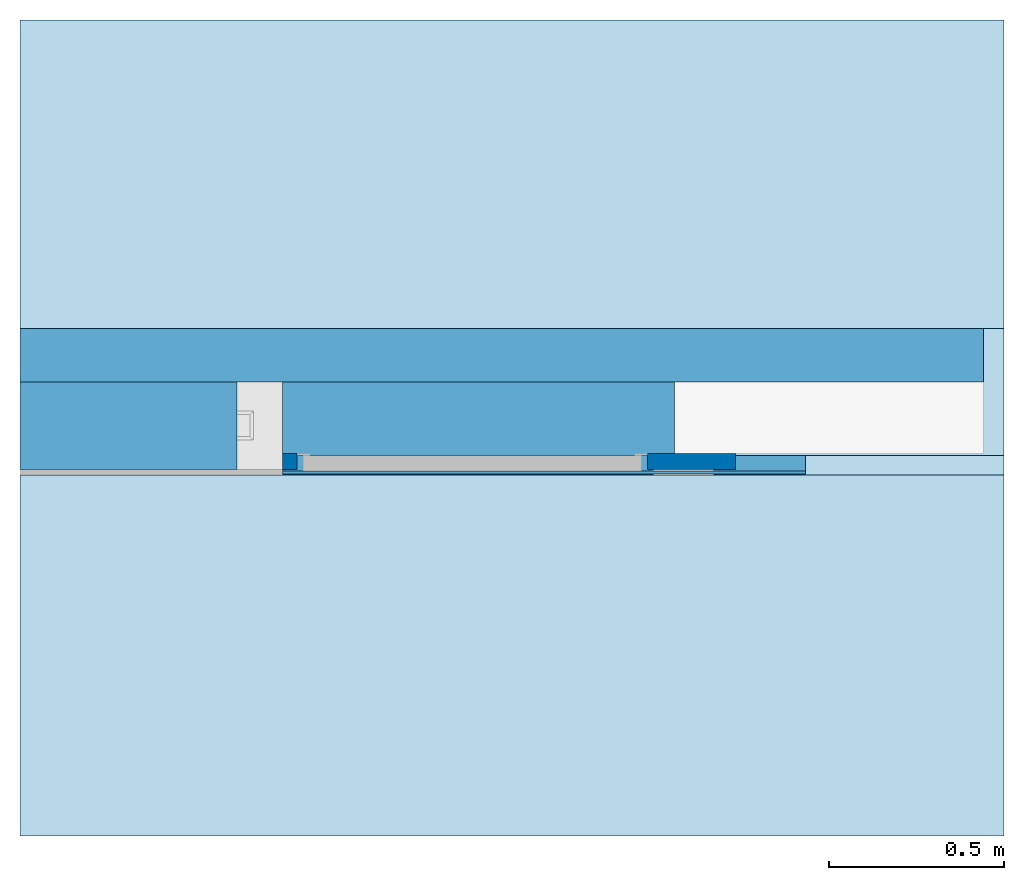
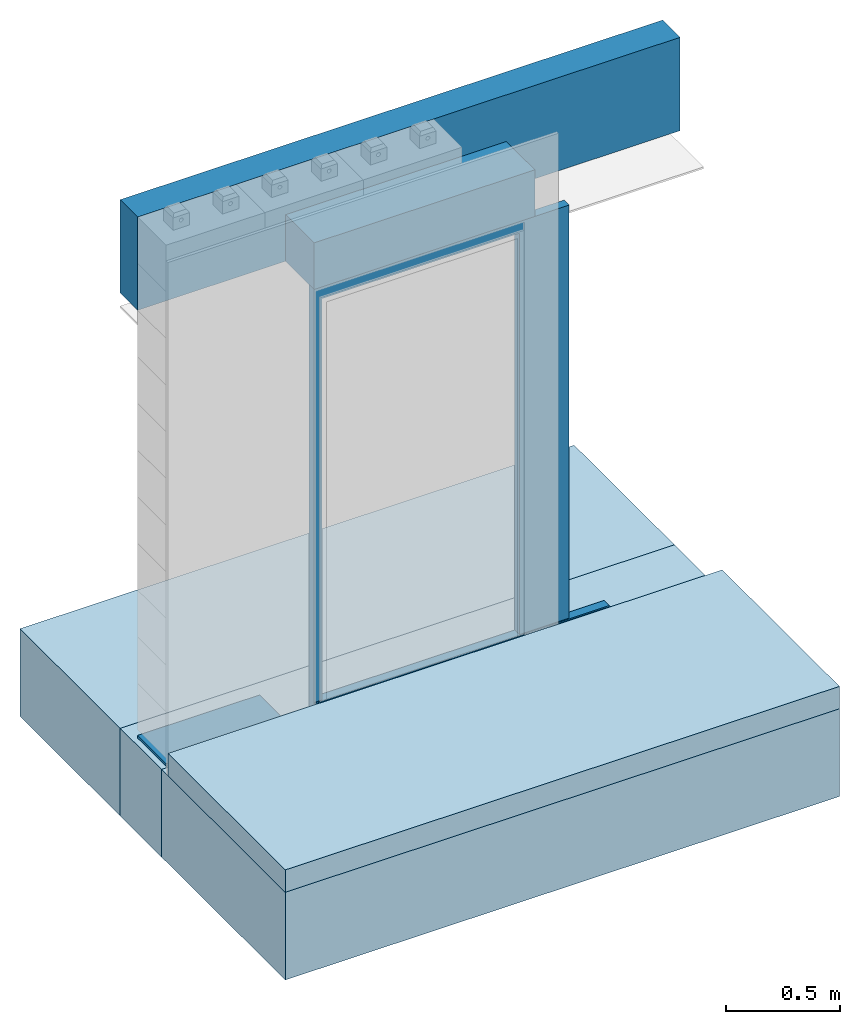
# One storey, part 1 of 3: 4 slabs, 4 walls, 2 beams, 1 opening.
"""IFC4 building model written with IfcOpenShell, lengths in centimetres."""

from ifc_helpers import new_model, entity, si_unit, converted_unit, direction, frame, origin, place, context, subcontext, project, spatial, indexed_curve, outline, extrude, polygons, source, transform, mapped, material, constituent, constituent_set, type_object, type_shapes, element, save


model = new_model("IFC4")

# Units and contexts
model_context = context("Model", 3, precision=0.001, world=origin(), true_north=direction((0.0, 1.0)))
body_context = subcontext(model_context, "Body", "Model", "MODEL_VIEW")
ifc_project = project(units=[si_unit("LENGTHUNIT", "METRE", prefix="CENTI"), si_unit("AREAUNIT", "SQUARE_METRE"), si_unit("VOLUMEUNIT", "CUBIC_METRE"), converted_unit("PLANEANGLEUNIT", "DEGREE", entity("IfcPlaneAngleMeasure", 0.017453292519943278), si_unit("PLANEANGLEUNIT", "RADIAN"), dimensions=[0, 0, 0, 0, 0, 0, 0])], contexts=[model_context])

# Site, building, storey
site_placement = place(None, origin())
site = spatial("IfcSite", under=ifc_project, at=site_placement, Name="Default", CompositionType="ELEMENT")
building_placement = place(site_placement, origin())
building = spatial("IfcBuilding", under=site, at=building_placement, CompositionType="ELEMENT")
storey_placement = place(building_placement, frame((0.0, 0.0, -12.0)))
storey = spatial("IfcBuildingStorey", under=building, at=storey_placement, Name="L00__ABOVE Slab", CompositionType="ELEMENT", Elevation=-12.000000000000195)

# Beams
ifc_material_1 = material(Name="_STRUCTURE__Wood")
beam_type_1 = type_object("IfcBeamType", Name="Structural Framing : sfr__WOOD__Rectangular__sf : 15 x 1cm", PredefinedType="BEAM", material=ifc_material_1)
shared_shape_1 = source(origin(), body_context, "Body", "SweptSolid", [
    extrude(outline(indexed_curve([(-30.949999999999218, -12.500000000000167), (30.949999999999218, -12.500000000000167), (30.949999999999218, 12.500000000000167), (-30.949999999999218, 12.500000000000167), (-30.949999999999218, -12.500000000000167)], self_intersect=False)), frame((-6.550000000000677, 0.0, -0.7500000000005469), z_axis=(0.0, 0.0, 1.0), x_axis=(-1.0, 0.0, 0.0)), (0.0, 0.0, 1.0), 1.4999999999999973),
])
type_shapes(beam_type_1, [shared_shape_1])
beam_1_placement = place(storey_placement, frame((2813.149456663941, 1205.3718731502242, 9.25), z_axis=(0.0, 0.0, 1.0), x_axis=(-1.0, 0.0, 0.0)))
element("IfcBeam", 1, at=beam_1_placement, inside=storey, type_object=beam_type_1, material=ifc_material_1, Name="Structural Framing : sfr__WOOD__Rectangular__sf : 15 x 1cm", PredefinedType="BEAM", context=body_context, shape_type="MappedRepresentation", body=[
    mapped(shared_shape_1, transform((0.0, 0.0, 0.0), scale=1.0)),
])
ifc_material_2 = material(Name="_MASONRY__Timber Block__Triqbriq, Filler", Category="Miscellaneous")
beam_type_2 = type_object("IfcBeamType", Name="Structural Framing : sfr__WOOD__Rectangular__sf : 15 x 25cm", PredefinedType="BEAM", material=ifc_material_2)
shared_shape_2 = source(origin(), body_context, "Body", "SweptSolid", [
    extrude(outline(indexed_curve([(-55.949999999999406, -12.500000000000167), (55.949999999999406, -12.500000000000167), (55.949999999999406, 12.500000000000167), (-55.949999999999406, 12.500000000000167), (-55.949999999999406, -12.500000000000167)], self_intersect=False)), frame((19.050000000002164, 0.0, -12.500000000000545), z_axis=(0.0, 0.0, 1.0), x_axis=(-1.0, 0.0, 0.0)), (0.0, 0.0, 1.0), 24.999999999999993),
])
type_shapes(beam_type_2, [shared_shape_2])
beam_2_placement = place(storey_placement, frame((2900.6494566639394, 1205.3718731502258, 250.30000000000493)))
element("IfcBeam", 2, at=beam_2_placement, inside=storey, type_object=beam_type_2, material=ifc_material_2, Name="Structural Framing : sfr__WOOD__Rectangular__sf : 15 x 25cm", PredefinedType="BEAM", context=body_context, shape_type="MappedRepresentation", body=[
    mapped(shared_shape_2, transform((0.0, 0.0, 0.0), scale=1.0)),
])

# Slabs
ifc_material_3 = material(Name="_FND LAYERS__Insulation__Foam Glass__Glapor", Category="Unassigned")
ifc_constituent_1 = constituent(ifc_material_3, Name="_FND LAYERS__Insulation__Foam Glass__Glapor", Category="Unassigned", fraction=0.2553191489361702)
ifc_constituent_2 = constituent(ifc_material_3, Name="_FND LAYERS__Insulation__Foam Glass__Glapor", Category="Unassigned", fraction=0.2553191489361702)
ifc_material_4 = material(Name="_FCD FINISH__Spray-cork", Category="Concrete")
ifc_constituent_3 = constituent(ifc_material_4, Name="_FCD FINISH__Spray-cork", Category="Concrete", fraction=0.06382978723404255)
ifc_material_5 = material(Name="_OBJECT__Casework__Stone")
ifc_constituent_4 = constituent(ifc_material_5, Name="_OBJECT__Casework__Stone", fraction=0.425531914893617)
ifc_constituent_set_1 = constituent_set(constituents=[ifc_constituent_1, ifc_constituent_2, ifc_constituent_3, ifc_constituent_4], Name="Floor:flr__WP & INSULATION__GLAPOR")
slab_type_1 = type_object("IfcSlabType", Name="Floors : Floor : flr__WP & INSULATION__GLAPOR", PredefinedType="FLOOR", material=ifc_constituent_set_1)
slab_1_placement = place(storey_placement, origin())
element("IfcSlab", 3, at=slab_1_placement, inside=storey, type_object=slab_type_1, material=ifc_constituent_set_1, Name="Floors : Floor : flr__WP & INSULATION__GLAPOR", PredefinedType="FLOOR", context=body_context, shape_type="SweptSolid", body=[
    extrude(outline(indexed_curve([(-54.30000000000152, -140.44999999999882), (54.300000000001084, -140.44999999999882), (54.30000000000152, 140.44999999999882), (-54.300000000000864, 140.44999999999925), (-54.30000000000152, -140.44999999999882)], self_intersect=False)), frame((2929.1994566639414, 1142.5718731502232, -7.499999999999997), z_axis=(0.0, 0.0, 1.0), x_axis=(0.0, 1.0, 0.0)), (0.0, 0.0, 1.0), 12.0),
    extrude(outline(indexed_curve([(-54.30000000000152, -140.44999999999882), (54.300000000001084, -140.44999999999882), (54.30000000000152, 140.44999999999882), (-54.300000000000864, 140.44999999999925), (-54.30000000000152, -140.44999999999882)], self_intersect=False)), frame((2929.1994566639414, 1142.5718731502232, -19.499999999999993), z_axis=(0.0, 0.0, 1.0), x_axis=(0.0, 1.0, 0.0)), (0.0, 0.0, 1.0), 11.999999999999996),
    extrude(outline(indexed_curve([(-54.30000000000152, -140.44999999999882), (54.300000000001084, -140.44999999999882), (54.30000000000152, 140.44999999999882), (-54.300000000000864, 140.44999999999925), (-54.30000000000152, -140.44999999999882)], self_intersect=False)), frame((2929.1994566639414, 1142.5718731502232, -22.5), z_axis=(0.0, 0.0, 1.0), x_axis=(0.0, 1.0, 0.0)), (0.0, 0.0, 1.0), 3.0000000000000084),
    extrude(outline(indexed_curve([(-54.30000000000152, -140.44999999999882), (54.300000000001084, -140.44999999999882), (54.30000000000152, 140.44999999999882), (-54.300000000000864, 140.44999999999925), (-54.30000000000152, -140.44999999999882)], self_intersect=False)), frame((2929.1994566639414, 1142.5718731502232, -42.5), z_axis=(0.0, 0.0, 1.0), x_axis=(0.0, 1.0, 0.0)), (0.0, 0.0, 1.0), 20.0),
])
ifc_material_6 = material(Name="_FINISH STAIR__Int__Parquet Flooring__Stairs", Category="Unassigned")
ifc_constituent_5 = constituent(ifc_material_6, Name="_FINISH STAIR__Int__Parquet Flooring__Stairs", Category="Unassigned", fraction=0.08333333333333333)
ifc_material_7 = material(Name="_FLR LAYERS__Screed, SL 0.5%__Semi-dry CEM, Rc ≥ 22.5 N/mm²", Category="Concrete")
ifc_constituent_6 = constituent(ifc_material_7, Name="_FLR LAYERS__Screed, SL 0.5%__Semi-dry CEM, Rc ≥ 22.5 N/mm²", Category="Concrete", fraction=0.2916666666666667)
ifc_material_8 = material(Name="_FLR COVERING__Polished Concrete", Category="Concrete")
ifc_constituent_7 = constituent(ifc_material_8, Name="_FLR COVERING__Polished Concrete", Category="Concrete", fraction=0.5833333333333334)
ifc_material_9 = material(Name="_FCD VENT LAYERS__Support Board__OSB 3", Category="Ceramic")
ifc_constituent_8 = constituent(ifc_material_9, Name="_FCD VENT LAYERS__Support Board__OSB 3", Category="Ceramic", fraction=0.041666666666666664)
ifc_constituent_set_2 = constituent_set(constituents=[ifc_constituent_5, ifc_constituent_6, ifc_constituent_7, ifc_constituent_8], Name="Floor:flr__INT COVERING__Parquet")
slab_type_2 = type_object("IfcSlabType", Name="Floors : Floor : flr__INT COVERING__Parquet", PredefinedType="FLOOR", material=ifc_constituent_set_2)
slab_2_placement = place(storey_placement, origin())
element("IfcSlab", 4, at=slab_2_placement, inside=storey, type_object=slab_type_2, material=ifc_constituent_set_2, Name="Floors : Floor : flr__INT COVERING__Parquet", PredefinedType="FLOOR", context=body_context, shape_type="SweptSolid", body=[
    extrude(outline(indexed_curve([(45.240000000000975, -41.19999999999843), (129.13999999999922, -41.19999999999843), (129.13999999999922, 61.799999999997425), (-151.75999999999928, 61.799999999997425), (-151.75999999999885, -41.19999999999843), (45.240000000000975, -41.19999999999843)], self_intersect=False)), frame((2917.8894566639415, 1150.0718731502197, 15.500000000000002), z_axis=(0.0, 0.0, 1.0), x_axis=(-1.0, 0.0, 0.0)), (0.0, 0.0, 1.0), 1.0000000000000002),
    extrude(outline(indexed_curve([(45.240000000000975, -41.19999999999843), (129.13999999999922, -41.19999999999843), (129.13999999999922, 61.799999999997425), (-151.75999999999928, 61.799999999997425), (-151.75999999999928, -41.19999999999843), (45.240000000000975, -41.19999999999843)], self_intersect=False)), frame((2917.8894566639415, 1150.0718731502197, 12.0), z_axis=(0.0, 0.0, 1.0), x_axis=(-1.0, 0.0, 0.0)), (0.0, 0.0, 1.0), 3.4999999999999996),
    extrude(outline(indexed_curve([(45.240000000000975, -41.19999999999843), (129.13999999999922, -41.19999999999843), (129.13999999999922, 61.799999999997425), (-151.75999999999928, 61.799999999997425), (-151.75999999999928, -41.19999999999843), (45.240000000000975, -41.19999999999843)], self_intersect=False)), frame((2917.8894566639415, 1150.0718731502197, 5.0), z_axis=(0.0, 0.0, 1.0), x_axis=(-1.0, 0.0, 0.0)), (0.0, 0.0, 1.0), 7.0),
    extrude(outline(indexed_curve([(-41.19999999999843, -129.13999999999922), (61.799999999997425, -129.13999999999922), (61.799999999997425, 151.75999999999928), (-41.19999999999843, 151.75999999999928), (-41.19999999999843, -45.240000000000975), (-41.19999999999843, -129.13999999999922)], self_intersect=False)), frame((2917.8894566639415, 1150.0718731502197, 4.500000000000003), z_axis=(0.0, 0.0, 1.0), x_axis=(0.0, -1.0, 0.0)), (0.0, 0.0, 1.0), 0.49999999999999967),
])
ifc_material_10 = material(Name="_FLR COVERING__Parquet 2-Layer (T&G)", Category="Unassigned")
ifc_constituent_9 = constituent(ifc_material_10, Name="_FLR COVERING__Parquet 2-Layer (T&G)", Category="Unassigned", fraction=0.0425531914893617)
ifc_material_11 = material(Name="_FLR LAYERS__Equalization Infill__Gravel", Category="Unassigned")
ifc_constituent_10 = constituent(ifc_material_11, Name="_FLR LAYERS__Equalization Infill__Gravel", Category="Unassigned", fraction=0.2127659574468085)
ifc_constituent_11 = constituent(ifc_material_3, Name="_FND LAYERS__Insulation__Foam Glass__Glapor", Category="Unassigned", fraction=0.2553191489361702)
ifc_constituent_12 = constituent(ifc_material_4, Name="_FCD FINISH__Spray-cork", Category="Concrete", fraction=0.06382978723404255)
ifc_constituent_13 = constituent(ifc_material_5, Name="_OBJECT__Casework__Stone", fraction=0.425531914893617)
ifc_constituent_set_3 = constituent_set(constituents=[ifc_constituent_9, ifc_constituent_10, ifc_constituent_11, ifc_constituent_12, ifc_constituent_13], Name="Floor:flr__WP & INSULATION__GLAPOR+Kies")
slab_type_3 = type_object("IfcSlabType", Name="Floors : Floor : flr__WP & INSULATION__GLAPOR+Kies", PredefinedType="FLOOR", material=ifc_constituent_set_3)
slab_3_placement = place(storey_placement, origin())
element("IfcSlab", 5, at=slab_3_placement, inside=storey, type_object=slab_type_3, material=ifc_constituent_set_3, Name="Floors : Floor : flr__WP & INSULATION__GLAPOR+Kies", PredefinedType="FLOOR", context=body_context, shape_type="SweptSolid", body=[
    extrude(outline(indexed_curve([(-18.15000000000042, -140.44999999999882), (18.149999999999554, -140.44999999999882), (18.149999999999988, 140.44999999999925), (-18.14999999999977, 140.44999999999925), (-18.15000000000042, -140.44999999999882)], self_intersect=False)), frame((2929.1994566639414, 1215.0218731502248, 2.5000000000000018), z_axis=(0.0, 0.0, 1.0), x_axis=(0.0, 1.0, 0.0)), (0.0, 0.0, 1.0), 2.0000000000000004),
    extrude(outline(indexed_curve([(-18.150000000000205, -140.44999999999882), (18.14999999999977, -140.4499999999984), (18.149999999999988, 140.44999999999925), (-18.149999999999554, 140.44999999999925), (-18.150000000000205, -140.44999999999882)], self_intersect=False)), frame((2929.1994566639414, 1215.0218731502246, -7.5), z_axis=(0.0, 0.0, 1.0), x_axis=(0.0, 1.0, 0.0)), (0.0, 0.0, 1.0), 10.000000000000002),
    extrude(outline(indexed_curve([(-18.15000000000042, -140.44999999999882), (18.149999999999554, -140.44999999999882), (18.149999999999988, 140.44999999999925), (-18.14999999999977, 140.44999999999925), (-18.15000000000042, -140.44999999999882)], self_intersect=False)), frame((2929.1994566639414, 1215.0218731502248, -19.499999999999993), z_axis=(0.0, 0.0, 1.0), x_axis=(0.0, 1.0, 0.0)), (0.0, 0.0, 1.0), 11.999999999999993),
    extrude(outline(indexed_curve([(-18.15000000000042, -140.44999999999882), (18.149999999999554, -140.44999999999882), (18.149999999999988, 140.44999999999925), (-18.14999999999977, 140.44999999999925), (-18.15000000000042, -140.44999999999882)], self_intersect=False)), frame((2929.1994566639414, 1215.0218731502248, -22.5), z_axis=(0.0, 0.0, 1.0), x_axis=(0.0, 1.0, 0.0)), (0.0, 0.0, 1.0), 3.0000000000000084),
    extrude(outline(indexed_curve([(-18.15000000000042, -140.44999999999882), (18.149999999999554, -140.44999999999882), (18.149999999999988, 140.44999999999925), (-18.14999999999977, 140.44999999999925), (-18.15000000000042, -140.44999999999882)], self_intersect=False)), frame((2929.1994566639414, 1215.0218731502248, -42.5), z_axis=(0.0, 0.0, 1.0), x_axis=(0.0, 1.0, 0.0)), (0.0, 0.0, 1.0), 20.0),
])
ifc_constituent_14 = constituent(ifc_material_11, Name="_FLR LAYERS__Equalization Infill__Gravel", Category="Unassigned", fraction=0.5106382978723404)
ifc_constituent_15 = constituent(ifc_material_4, Name="_FCD FINISH__Spray-cork", Category="Concrete", fraction=0.06382978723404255)
ifc_constituent_16 = constituent(ifc_material_5, Name="_OBJECT__Casework__Stone", fraction=0.425531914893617)
ifc_constituent_set_4 = constituent_set(constituents=[ifc_constituent_14, ifc_constituent_15, ifc_constituent_16], Name="Floor:flr__WP & INSULATION__Kies")
slab_type_4 = type_object("IfcSlabType", Name="Floors : Floor : flr__WP & INSULATION__Kies", PredefinedType="FLOOR", material=ifc_constituent_set_4)
slab_4_placement = place(storey_placement, origin())
element("IfcSlab", 6, at=slab_4_placement, inside=storey, type_object=slab_type_4, material=ifc_constituent_set_4, Name="Floors : Floor : flr__WP & INSULATION__Kies", PredefinedType="FLOOR", context=body_context, shape_type="SweptSolid", body=[
    extrude(outline(indexed_curve([(-44.00000000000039, -140.44999999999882), (43.999999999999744, -140.44999999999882), (44.00000000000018, 140.44999999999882), (-43.999999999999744, 140.44999999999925), (-44.00000000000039, -140.44999999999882)], self_intersect=False)), frame((2929.1994566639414, 1277.1718731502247, -19.499999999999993), z_axis=(0.0, 0.0, 1.0), x_axis=(0.0, 1.0, 0.0)), (0.0, 0.0, 1.0), 23.999999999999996),
    extrude(outline(indexed_curve([(-44.00000000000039, -140.44999999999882), (43.999999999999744, -140.44999999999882), (44.00000000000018, 140.44999999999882), (-43.999999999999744, 140.44999999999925), (-44.00000000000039, -140.44999999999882)], self_intersect=False)), frame((2929.1994566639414, 1277.1718731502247, -22.5), z_axis=(0.0, 0.0, 1.0), x_axis=(0.0, 1.0, 0.0)), (0.0, 0.0, 1.0), 3.0000000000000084),
    extrude(outline(indexed_curve([(-44.00000000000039, -140.44999999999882), (43.999999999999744, -140.44999999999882), (44.00000000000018, 140.44999999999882), (-43.999999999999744, 140.44999999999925), (-44.00000000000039, -140.44999999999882)], self_intersect=False)), frame((2929.1994566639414, 1277.1718731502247, -42.5), z_axis=(0.0, 0.0, 1.0), x_axis=(0.0, 1.0, 0.0)), (0.0, 0.0, 1.0), 20.0),
])

# Wall
ifc_material_12 = material(Name="_FCD FINISH__Mineral Render__Combed, H L/O__Capatect Kreativeffekt \"Filigrano\"__White", Category="Concrete")
ifc_constituent_17 = constituent(ifc_material_12, Name="_FCD FINISH__Mineral Render__Combed, H L/O__Capatect Kreativeffekt \"Filigrano\"__White", Category="Concrete", fraction=0.0196078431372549)
ifc_material_13 = material(Name="_STRUCTURE__Wood Solid")
ifc_constituent_18 = constituent(ifc_material_13, Name="_STRUCTURE__Wood Solid", fraction=0.06535947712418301)
ifc_material_14 = material(Name="_FCD LAYERS__Insulation__Wood-fiber__Steico", Category="Unassigned")
ifc_constituent_19 = constituent(ifc_material_14, Name="_FCD LAYERS__Insulation__Wood-fiber__Steico", Category="Unassigned", fraction=0.9150326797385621)
ifc_constituent_set_5 = constituent_set(constituents=[ifc_constituent_17, ifc_constituent_18, ifc_constituent_19], Name="Basic Wall:wll__EXT ENCLOSURE__Spritzkork, Wood Insulation 8.4cm__TriqBriq, FS.1")
wall_type_1 = type_object("IfcWallType", Name="Walls : Basic Wall : wll__EXT ENCLOSURE__Spritzkork, Wood Insulation 8.4cm__TriqBriq, FS.1", PredefinedType="STANDARD", material=ifc_constituent_set_5)
wall_1_placement = place(storey_placement, frame((2788.749456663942, 1225.5218731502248, 237.80000000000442)))
element("IfcWall", 7, at=wall_1_placement, inside=storey, type_object=wall_type_1, material=ifc_constituent_set_5, Name="Walls : Basic Wall : wll__EXT ENCLOSURE__Spritzkork, Wood Insulation 8.4cm__TriqBriq, FS.1", PredefinedType="NOTDEFINED", context=body_context, shape_type="SweptSolid", body=[
    extrude(outline(indexed_curve([(-0.14999999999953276, -137.50000000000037), (0.15000000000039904, -137.50000000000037), (0.14999999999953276, 137.49999999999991), (-0.15000000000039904, 137.49999999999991), (-0.14999999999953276, -137.50000000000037)], self_intersect=False)), frame((137.50000000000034, 7.5000000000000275, 0.0), z_axis=(0.0, 0.0, 1.0), x_axis=(0.0, -1.0, 0.0)), (0.0, 0.0, 1.0), 50.0),
    extrude(outline(indexed_curve([(-6.999999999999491, -137.50000000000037), (7.000000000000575, -137.49999999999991), (6.999999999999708, 137.49999999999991), (-7.000000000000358, 137.49999999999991), (-6.999999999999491, -137.50000000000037)], self_intersect=False)), frame((137.4999999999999, -0.6500000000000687, 0.0), z_axis=(0.0, 0.0, 1.0), x_axis=(0.0, 1.0, 0.0)), (0.0, 0.0, 1.0), 50.0),
    extrude(outline(indexed_curve([(-137.49999999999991, -0.5000000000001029), (137.50000000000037, -0.5000000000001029), (137.5000000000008, 0.4999999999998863), (-137.49999999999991, 0.4999999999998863), (-137.49999999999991, -0.5000000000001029)], self_intersect=False)), frame((137.4999999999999, 6.8500000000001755, 0.0)), (0.0, 0.0, 1.0), 50.0),
])

# Wall, opening
ifc_material_15 = material(Name="_WLL & CLG FINISHES__Lime - CEM Plaster", Category="Unassigned")
ifc_constituent_20 = constituent(ifc_material_15, Name="_WLL & CLG FINISHES__Lime - CEM Plaster", Category="Unassigned", fraction=1.0)
ifc_constituent_set_6 = constituent_set(constituents=[ifc_constituent_20], Name="Basic Wall:wll__INT FINISH__Lime - CEM Plaster 4cm 2")
wall_type_2 = type_object("IfcWallType", Name="Walls : Basic Wall : wll__INT FINISH__Lime - CEM Plaster 4cm 2", PredefinedType="STANDARD", material=ifc_constituent_set_6)
wall_2_placement = place(storey_placement, frame((2863.749456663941, 1195.1218731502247, 0.9788034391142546)))
wall_2 = element("IfcWall", 8, at=wall_2_placement, inside=storey, type_object=wall_type_2, material=ifc_constituent_set_6, Name="Walls : Basic Wall : wll__INT FINISH__Lime - CEM Plaster 4cm 2", PredefinedType="NOTDEFINED", context=body_context, shape_type="Tessellation", body=[
    polygons([(129.29999999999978, -2.250000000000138, 0.0), (129.29999999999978, -2.250000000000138, 236.82119656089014), (1.67711457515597e-13, -2.250000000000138, 236.82119656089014), (1.67711457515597e-13, -2.250000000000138, 0.0), (4.100000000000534, -2.250000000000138, 0.0), (4.100000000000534, -2.250000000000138, 230.52119656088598), (104.10000000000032, -2.250000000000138, 230.52119656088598), (104.10000000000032, -2.250000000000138, 0.0), (129.29999999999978, 2.2499999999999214, 236.82119656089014), (129.29999999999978, 2.2499999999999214, 0.0), (104.10000000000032, 2.2499999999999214, 0.0), (104.10000000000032, 2.249999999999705, 230.52119656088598), (4.100000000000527, 2.249999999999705, 230.52119656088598), (4.100000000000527, 2.2499999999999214, 0.0), (1.601740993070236e-13, 2.2499999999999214, 0.0), (1.601740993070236e-13, 2.2499999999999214, 236.82119656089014)], [[[1, 2, 3, 4, 5, 6, 7, 8]], [[9, 10, 11, 12, 13, 14, 15, 16]], [[4, 15, 14, 5]], [[2, 1, 10, 9]], [[3, 2, 9, 16]], [[4, 3, 16, 15]], [[6, 13, 12, 7]], [[13, 6, 5, 14]], [[7, 12, 11, 8]], [[10, 1, 8, 11]]], closed=True),
])
opening_placement = place(wall_2_placement, frame((-2863.749456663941, -1195.1218731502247, 15.521196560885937)))
element("IfcOpeningElement", 9, at=opening_placement, cuts=wall_2, Name="Walls : Basic Wall : wll__INT FINISH__Lime - CEM Plaster 4cm 2", PredefinedType="OPENING", context=body_context, shape_type="SweptSolid", body=[
    extrude(outline(indexed_curve([(-117.50000000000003, -50.00000000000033), (117.50000000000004, -50.00000000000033), (117.50000000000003, 49.99999999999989), (-117.50000000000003, 49.99999999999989), (-117.50000000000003, -50.00000000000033)], self_intersect=False)), frame((2917.849456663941, 1192.8718731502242, 97.50000000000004), z_axis=(0.0, 1.0, 0.0), x_axis=(0.0, 0.0, -1.0)), (0.0, 0.0, 1.0), 4.499999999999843),
])

# Walls
wall_3_placement = place(storey_placement, frame((2863.749456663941, 1194.621873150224, 4.500000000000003)))
element("IfcWall", 10, at=wall_3_placement, inside=storey, type_object=wall_type_2, material=ifc_constituent_set_6, Name="Walls : Basic Wall : wll__INT FINISH__Lime - CEM Plaster 4cm 2", PredefinedType="NOTDEFINED", context=body_context, shape_type="SweptSolid", body=[
    extrude(outline(indexed_curve([(149.299999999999, 2.2499999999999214), (-3.2638326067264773e-15, 2.2499999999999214), (3.2638326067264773e-15, -2.2499999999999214), (149.299999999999, -2.2499999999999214), (149.299999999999, 2.2499999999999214)], self_intersect=False)), origin(), (0.0, 0.0, 1.0), 12.0),
])
ifc_material_16 = material(Name="_FCD LAYERS__Insulation__EPS 120__Austrotherm EPS A120")
ifc_constituent_21 = constituent(ifc_material_16, Name="_FCD LAYERS__Insulation__EPS 120__Austrotherm EPS A120", fraction=1.0)
ifc_constituent_set_7 = constituent_set(constituents=[ifc_constituent_21], Name="Basic Wall:wll__UNCLASSIFIED__Randdämmstreifen 1.5cm")
wall_type_3 = type_object("IfcWallType", Name="Walls : Basic Wall : wll__UNCLASSIFIED__Randdämmstreifen 1.5cm", PredefinedType="STANDARD", material=ifc_constituent_set_7)
wall_4_placement = place(storey_placement, frame((2863.749456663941, 1191.971873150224, 4.500000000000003)))
element("IfcWall", 11, at=wall_4_placement, inside=storey, type_object=wall_type_3, material=ifc_constituent_set_7, Name="Walls : Basic Wall : wll__UNCLASSIFIED__Randdämmstreifen 1.5cm", PredefinedType="NOTDEFINED", context=body_context, shape_type="SweptSolid", body=[
    extrude(outline(indexed_curve([(149.299999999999, 0.39999999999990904), (-5.802369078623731e-16, 0.39999999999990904), (5.802369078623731e-16, -0.39999999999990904), (149.299999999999, -0.39999999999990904), (149.299999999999, 0.39999999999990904)], self_intersect=False)), origin(), (0.0, 0.0, 1.0), 12.0),
])

save(model, "model.ifc")
